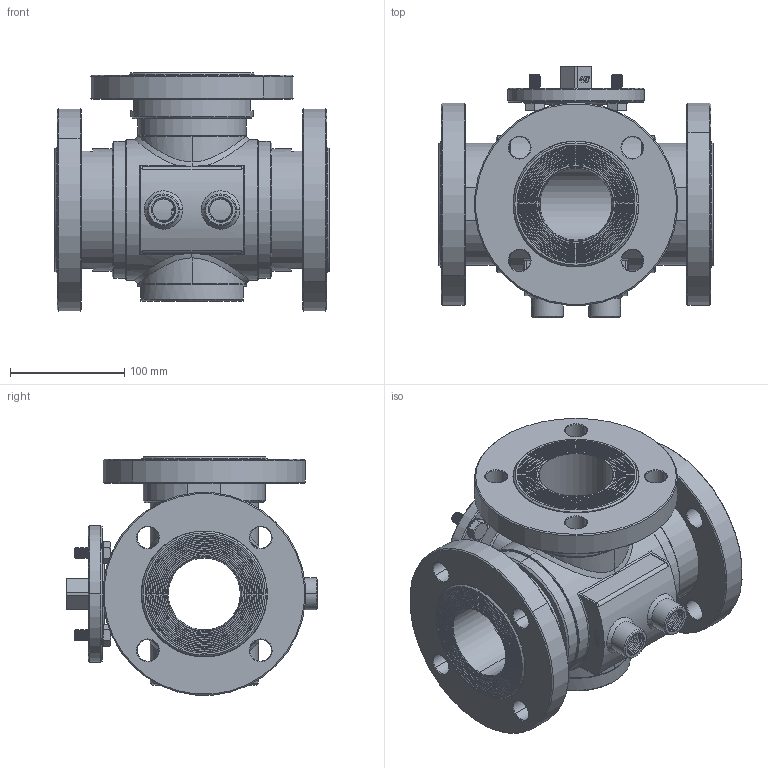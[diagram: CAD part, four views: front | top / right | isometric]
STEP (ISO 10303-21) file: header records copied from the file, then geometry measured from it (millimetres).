
FILE_DESCRIPTION((''),'2;1');
FILE_NAME('303055C6441F_SW0001','2026-09-07T10:07:43',('tecnico2'),('CDM Tecnoconsulting'),'CREO PARAMETRIC BY PTC INC, 2024063','CREO PARAMETRIC BY PTC INC, 2024063','');
FILE_SCHEMA(('CONFIG_CONTROL_DESIGN','SHAPE_APPEARANCE_LAYERS_GROUPS'));
Length unit declared in the file: millimetre
Products named in the file (1): 303055C6441F_SW0001
Bounding box: 240 x 219.5 x 208.56 mm (x, y, z)
Volume: 3082715.5 mm3; surface area: 491876.3 mm2
Topology: 1 solids, 1 shells, 2458 faces, 6576 edges, 4265 vertices
Faces by surface type: plane 1027, cylinder 587, cone 326, extrusion 279, bspline 135, torus 100, sphere 4
Entity records: 158565 total; most frequent: CARTESIAN_POINT 77783, ORIENTED_EDGE 13136, DIRECTION 10278, PRESENTATION_STYLE_ASSIGNMENT 7002, STYLED_ITEM 6625, CURVE_STYLE 6624, EDGE_CURVE 6568, VERTEX_POINT 4265
